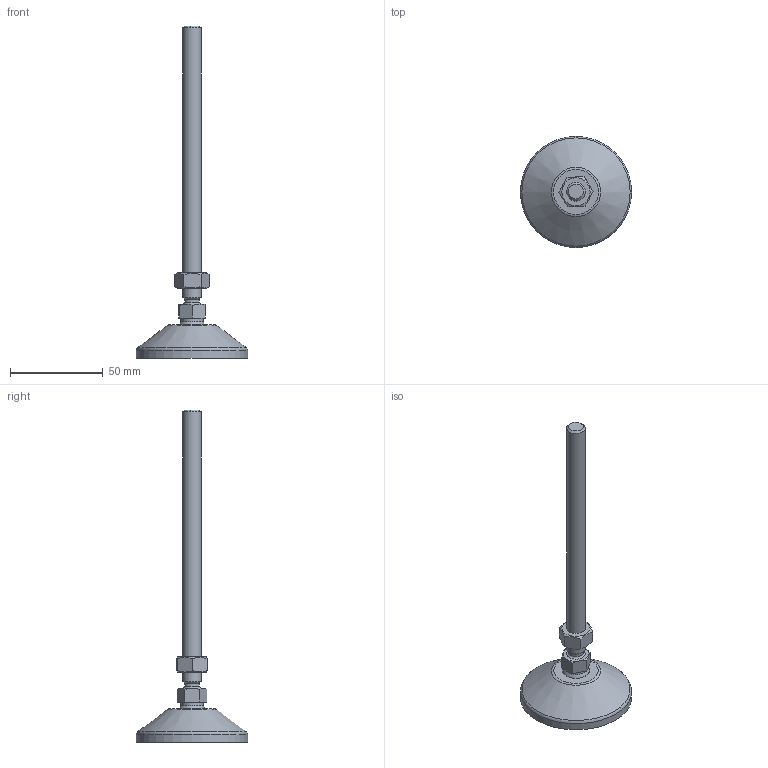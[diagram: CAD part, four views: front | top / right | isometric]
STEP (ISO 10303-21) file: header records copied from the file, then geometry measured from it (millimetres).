
FILE_DESCRIPTION(('STEP AP203'), '1');
FILE_NAME('栖闉罻', '', ('UNSPECIFIED'), ('UNSPECIFIED'), 'C3D Converter', 'C3D Toolkit', '');
FILE_SCHEMA(('CONFIG_CONTROL_DESIGN'));
Length unit declared in the file: millimetre
Products named in the file (4): A00020.110150; A00015.1060
Assembly tree (3 placements, depth 3):
  (unnamed)
    A00020.110150
      (unnamed)
    A00015.1060
Bounding box: 60 x 60 x 179 mm (x, y, z)
Volume: 35911.7 mm3; surface area: 16717.9 mm2
Topology: 3 solids, 3 shells, 158 faces, 415 edges, 275 vertices
Faces by surface type: plane 86, cylinder 34, torus 21, cone 15, sphere 2
Full cylindrical faces by diameter (mm): 4 x8, 8 x1, 8.376 x1, 10 x1, 12 x1, 14.3 x1, 15 x2, 15.5 x1, 50.5 x1, 60 x1
Entity records: 8241 total; most frequent: CARTESIAN_POINT 2996, DIRECTION 790, ORIENTED_EDGE 760, EDGE_CURVE 380, AXIS2_PLACEMENT_3D 322, VERTEX_POINT 274, EDGE_LOOP 206, FACE_BOUND 166
